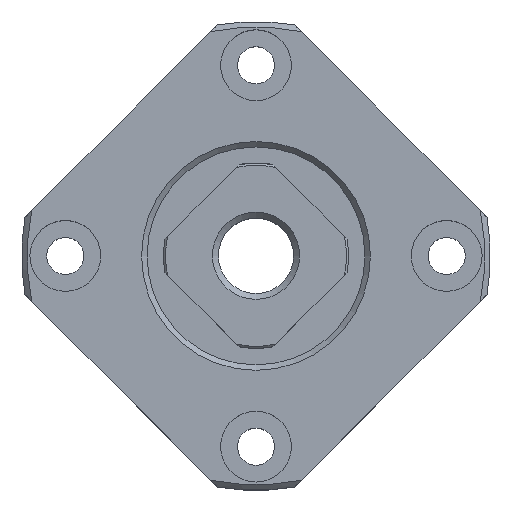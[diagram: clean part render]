
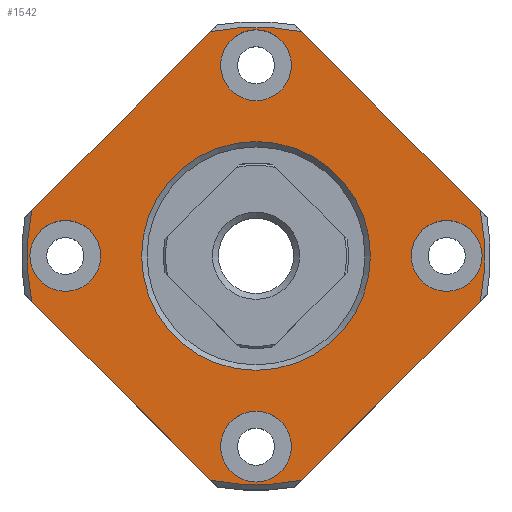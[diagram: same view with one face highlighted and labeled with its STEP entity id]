
A CAD part, top view. The second image highlights one B-rep face of the part: STEP entity #1542.
In plain terms, the highlighted planar face has unit normal (0, 0, 1) as drawn and (-1, 0, 0) by its records, which use the part's own axes.
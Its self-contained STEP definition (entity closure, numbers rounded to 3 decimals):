
#134=LINE('',#2383,#216);
#135=LINE('',#2388,#217);
#136=LINE('',#2392,#218);
#137=LINE('',#2396,#219);
#216=VECTOR('',#1900,1000.);
#217=VECTOR('',#1903,1000.);
#218=VECTOR('',#1906,1000.);
#219=VECTOR('',#1909,1000.);
#300=ORIENTED_EDGE('',*,*,#720,.T.);
#301=ORIENTED_EDGE('',*,*,#721,.T.);
#302=ORIENTED_EDGE('',*,*,#722,.T.);
#303=ORIENTED_EDGE('',*,*,#723,.T.);
#304=ORIENTED_EDGE('',*,*,#724,.F.);
#305=ORIENTED_EDGE('',*,*,#725,.F.);
#306=ORIENTED_EDGE('',*,*,#726,.F.);
#307=ORIENTED_EDGE('',*,*,#727,.F.);
#308=ORIENTED_EDGE('',*,*,#728,.F.);
#309=ORIENTED_EDGE('',*,*,#729,.F.);
#310=ORIENTED_EDGE('',*,*,#730,.F.);
#311=ORIENTED_EDGE('',*,*,#731,.F.);
#312=ORIENTED_EDGE('',*,*,#732,.T.);
#720=EDGE_CURVE('',#930,#930,#1086,.T.);
#721=EDGE_CURVE('',#931,#931,#1087,.T.);
#722=EDGE_CURVE('',#932,#932,#1088,.T.);
#723=EDGE_CURVE('',#933,#933,#1089,.T.);
#724=EDGE_CURVE('',#934,#935,#134,.T.);
#725=EDGE_CURVE('',#936,#934,#1090,.T.);
#726=EDGE_CURVE('',#937,#936,#135,.T.);
#727=EDGE_CURVE('',#938,#937,#1091,.T.);
#728=EDGE_CURVE('',#939,#938,#136,.T.);
#729=EDGE_CURVE('',#940,#939,#1092,.T.);
#730=EDGE_CURVE('',#941,#940,#137,.T.);
#731=EDGE_CURVE('',#935,#941,#1093,.T.);
#732=EDGE_CURVE('',#942,#942,#1094,.T.);
#930=VERTEX_POINT('',#2376);
#931=VERTEX_POINT('',#2378);
#932=VERTEX_POINT('',#2380);
#933=VERTEX_POINT('',#2382);
#934=VERTEX_POINT('',#2384);
#935=VERTEX_POINT('',#2385);
#936=VERTEX_POINT('',#2387);
#937=VERTEX_POINT('',#2389);
#938=VERTEX_POINT('',#2391);
#939=VERTEX_POINT('',#2393);
#940=VERTEX_POINT('',#2395);
#941=VERTEX_POINT('',#2397);
#942=VERTEX_POINT('',#2400);
#1086=CIRCLE('',#1685,3.25);
#1087=CIRCLE('',#1686,3.25);
#1088=CIRCLE('',#1687,3.25);
#1089=CIRCLE('',#1688,3.25);
#1090=CIRCLE('',#1689,21.);
#1091=CIRCLE('',#1690,21.);
#1092=CIRCLE('',#1691,21.);
#1093=CIRCLE('',#1692,21.);
#1094=CIRCLE('',#1693,10.5);
#1180=EDGE_LOOP('',(#300));
#1181=EDGE_LOOP('',(#301));
#1182=EDGE_LOOP('',(#302));
#1183=EDGE_LOOP('',(#303));
#1184=EDGE_LOOP('',(#304,#305,#306,#307,#308,#309,#310,#311));
#1185=EDGE_LOOP('',(#312));
#1340=FACE_BOUND('',#1180,.T.);
#1341=FACE_BOUND('',#1181,.T.);
#1342=FACE_BOUND('',#1182,.T.);
#1343=FACE_BOUND('',#1183,.T.);
#1344=FACE_BOUND('',#1184,.T.);
#1345=FACE_BOUND('',#1185,.T.);
#1499=PLANE('',#1684);
#1542=ADVANCED_FACE('',(#1340,#1341,#1342,#1343,#1344,#1345),#1499,.F.);
#1684=AXIS2_PLACEMENT_3D('',#2374,#1890,#1891);
#1685=AXIS2_PLACEMENT_3D('',#2375,#1892,#1893);
#1686=AXIS2_PLACEMENT_3D('',#2377,#1894,#1895);
#1687=AXIS2_PLACEMENT_3D('',#2379,#1896,#1897);
#1688=AXIS2_PLACEMENT_3D('',#2381,#1898,#1899);
#1689=AXIS2_PLACEMENT_3D('',#2386,#1901,#1902);
#1690=AXIS2_PLACEMENT_3D('',#2390,#1904,#1905);
#1691=AXIS2_PLACEMENT_3D('',#2394,#1907,#1908);
#1692=AXIS2_PLACEMENT_3D('',#2398,#1910,#1911);
#1693=AXIS2_PLACEMENT_3D('',#2399,#1912,#1913);
#1890=DIRECTION('',(1.,0.,0.));
#1891=DIRECTION('',(0.,0.,-1.));
#1892=DIRECTION('',(1.,0.,0.));
#1893=DIRECTION('',(0.,0.,-1.));
#1894=DIRECTION('',(1.,0.,0.));
#1895=DIRECTION('',(0.,0.,-1.));
#1896=DIRECTION('',(1.,0.,0.));
#1897=DIRECTION('',(0.,0.,-1.));
#1898=DIRECTION('',(1.,0.,0.));
#1899=DIRECTION('',(0.,0.,-1.));
#1900=DIRECTION('',(0.,-0.707,0.707));
#1901=DIRECTION('',(1.,0.,0.));
#1902=DIRECTION('',(0.,0.,-1.));
#1903=DIRECTION('',(0.,0.707,0.707));
#1904=DIRECTION('',(1.,0.,0.));
#1905=DIRECTION('',(0.,0.,-1.));
#1906=DIRECTION('',(0.,0.707,-0.707));
#1907=DIRECTION('',(1.,0.,0.));
#1908=DIRECTION('',(0.,0.,-1.));
#1909=DIRECTION('',(0.,-0.707,-0.707));
#1910=DIRECTION('',(1.,0.,0.));
#1911=DIRECTION('',(0.,0.,-1.));
#1912=DIRECTION('',(1.,0.,0.));
#1913=DIRECTION('',(0.,0.,-1.));
#2374=CARTESIAN_POINT('',(-9.,0.,0.));
#2375=CARTESIAN_POINT('',(-9.,0.,17.5));
#2376=CARTESIAN_POINT('',(-9.,0.,14.25));
#2377=CARTESIAN_POINT('',(-9.,-17.5,0.));
#2378=CARTESIAN_POINT('',(-9.,-17.5,-3.25));
#2379=CARTESIAN_POINT('',(-9.,0.,-17.5));
#2380=CARTESIAN_POINT('',(-9.,0.,-20.75));
#2381=CARTESIAN_POINT('',(-9.,17.5,0.));
#2382=CARTESIAN_POINT('',(-9.,17.5,-3.25));
#2383=CARTESIAN_POINT('',(-9.,24.749,0.));
#2384=CARTESIAN_POINT('',(-9.,20.583,4.166));
#2385=CARTESIAN_POINT('',(-9.,4.166,20.583));
#2386=CARTESIAN_POINT('',(-9.,0.,0.));
#2387=CARTESIAN_POINT('',(-9.,20.583,-4.166));
#2388=CARTESIAN_POINT('',(-9.,0.,-24.749));
#2389=CARTESIAN_POINT('',(-9.,4.166,-20.583));
#2390=CARTESIAN_POINT('',(-9.,0.,0.));
#2391=CARTESIAN_POINT('',(-9.,-4.166,-20.583));
#2392=CARTESIAN_POINT('',(-9.,-24.749,0.));
#2393=CARTESIAN_POINT('',(-9.,-20.583,-4.166));
#2394=CARTESIAN_POINT('',(-9.,0.,0.));
#2395=CARTESIAN_POINT('',(-9.,-20.583,4.166));
#2396=CARTESIAN_POINT('',(-9.,0.,24.749));
#2397=CARTESIAN_POINT('',(-9.,-4.166,20.583));
#2398=CARTESIAN_POINT('',(-9.,0.,0.));
#2399=CARTESIAN_POINT('',(-9.,0.,0.));
#2400=CARTESIAN_POINT('',(-9.,0.,-10.5));
